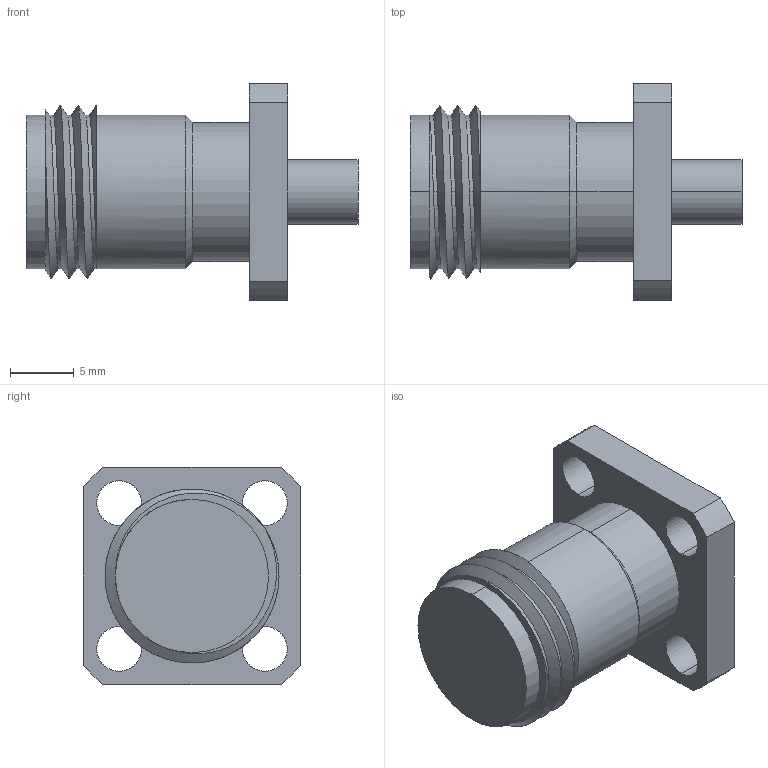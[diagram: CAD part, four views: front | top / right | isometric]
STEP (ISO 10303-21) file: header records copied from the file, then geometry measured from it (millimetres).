
FILE_DESCRIPTION (( 'STEP AP203' ), '1' );
FILE_NAME ('CRE-MC1807-MDT.STEP', '2020-07-30T12:05:46', ( '' ), ( '' ), 'SwSTEP 2.0', 'SolidWorks 2018', '' );
FILE_SCHEMA (( 'CONFIG_CONTROL_DESIGN' ));
Length unit declared in the file: millimetre
Products named in the file (1): CRE-MC1807-MDT
Bounding box: 26 x 17.02 x 17.02 mm (x, y, z)
Volume: 2768.2 mm3; surface area: 1739 mm2
Topology: 1 solids, 1 shells, 47 faces, 113 edges, 74 vertices
Faces by surface type: cylinder 31, plane 12, cone 2, bspline 2
Entity records: 2027 total; most frequent: CARTESIAN_POINT 841, DIRECTION 238, ORIENTED_EDGE 226, EDGE_CURVE 113, AXIS2_PLACEMENT_3D 97, VERTEX_POINT 74, EDGE_LOOP 61, CIRCLE 51
